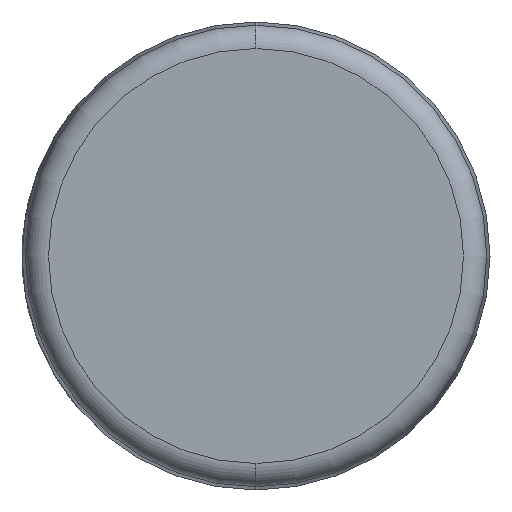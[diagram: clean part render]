
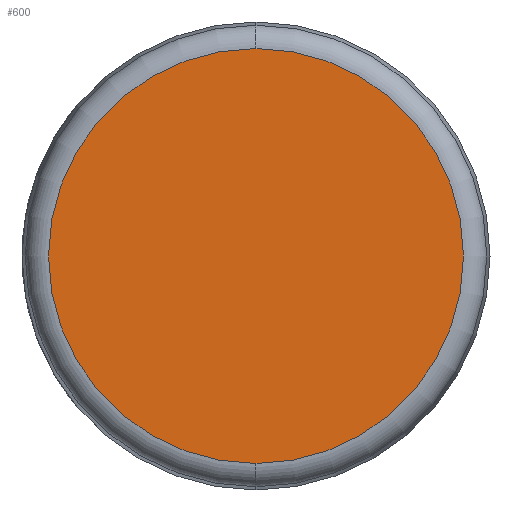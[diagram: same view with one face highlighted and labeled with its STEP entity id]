
A CAD part, left-side view. The second image highlights one B-rep face of the part: STEP entity #600.
In plain terms, the highlighted planar face has unit normal (-1, 0, 0).
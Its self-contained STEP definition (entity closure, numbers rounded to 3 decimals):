
#45 = VERTEX_POINT ( 'NONE', #462 ) ;
#48 = DIRECTION ( 'NONE',  ( 0., 0., -1. ) ) ;
#78 = EDGE_LOOP ( 'NONE', ( #578, #267 ) ) ;
#82 = DIRECTION ( 'NONE',  ( 0., 0., -1. ) ) ;
#87 = AXIS2_PLACEMENT_3D ( 'NONE', #294, #468, #48 ) ;
#153 = CARTESIAN_POINT ( 'NONE',  ( 0., 0., -17.73 ) ) ;
#229 = VERTEX_POINT ( 'NONE', #153 ) ;
#267 = ORIENTED_EDGE ( 'NONE', *, *, #545, .T. ) ;
#288 = EDGE_CURVE ( 'NONE', #229, #45, #522, .T. ) ;
#294 = CARTESIAN_POINT ( 'NONE',  ( 0., 0., 0. ) ) ;
#370 = DIRECTION ( 'NONE',  ( -1., 0., 0. ) ) ;
#385 = DIRECTION ( 'NONE',  ( 1., 0., 0. ) ) ;
#422 = FACE_OUTER_BOUND ( 'NONE', #78, .T. ) ;
#442 = CIRCLE ( 'NONE', #512, 17.73 ) ;
#462 = CARTESIAN_POINT ( 'NONE',  ( 0., 0., 17.73 ) ) ;
#468 = DIRECTION ( 'NONE',  ( -1., 0., 0. ) ) ;
#502 = PLANE ( 'NONE',  #576 ) ;
#512 = AXIS2_PLACEMENT_3D ( 'NONE', #621, #370, #562 ) ;
#522 = CIRCLE ( 'NONE', #87, 17.73 ) ;
#545 = EDGE_CURVE ( 'NONE', #45, #229, #442, .T. ) ;
#562 = DIRECTION ( 'NONE',  ( 0., 0., -1. ) ) ;
#576 = AXIS2_PLACEMENT_3D ( 'NONE', #635, #385, #82 ) ;
#578 = ORIENTED_EDGE ( 'NONE', *, *, #288, .T. ) ;
#600 = ADVANCED_FACE ( 'NONE', ( #422 ), #502, .F. ) ;
#621 = CARTESIAN_POINT ( 'NONE',  ( 0., 0., 0. ) ) ;
#635 = CARTESIAN_POINT ( 'NONE',  ( 0., 0., 0. ) ) ;
